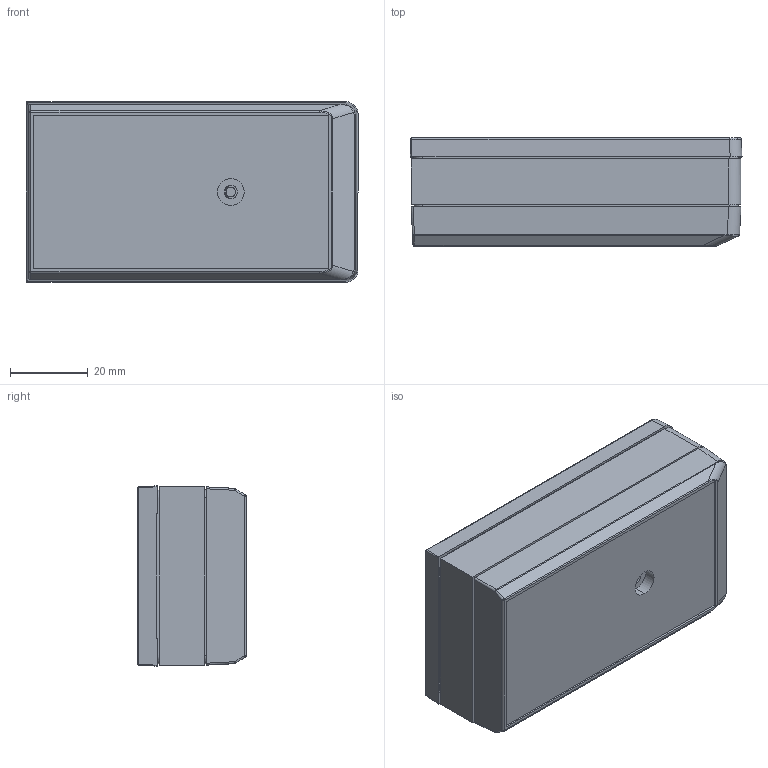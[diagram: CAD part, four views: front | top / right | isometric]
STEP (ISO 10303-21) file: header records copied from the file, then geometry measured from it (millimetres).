
FILE_DESCRIPTION (( 'STEP AP214' ), '1' );
FILE_NAME ('PBS-assembly.STEP', '2019-10-25T15:11:17', ( 'Rudy' ), ( '' ), 'SwSTEP 2.0', 'SolidWorks 2014', '' );
FILE_SCHEMA (( 'AUTOMOTIVE_DESIGN' ));
Length unit declared in the file: millimetre
Products named in the file (4): PBS-expander; PBS-top; PBS-bottom-insert; PBS-assembly
Assembly tree (3 placements, depth 2):
  PBS-assembly
    PBS-bottom-insert
    PBS-top
    PBS-expander
Bounding box: 85.61 x 27.92 x 46.49 mm (x, y, z)
Volume: 28036.7 mm3; surface area: 39876.7 mm2
Topology: 3 solids, 3 shells, 2154 faces, 6011 edges, 3978 vertices
Faces by surface type: plane 1078, bspline 923, cylinder 127, cone 16, torus 6, sphere 4
Entity records: 100959 total; most frequent: CARTESIAN_POINT 51630, ORIENTED_EDGE 12010, DIRECTION 6890, EDGE_CURVE 6005, VERTEX_POINT 3978, LINE 3870, VECTOR 3870, EDGE_LOOP 2297
